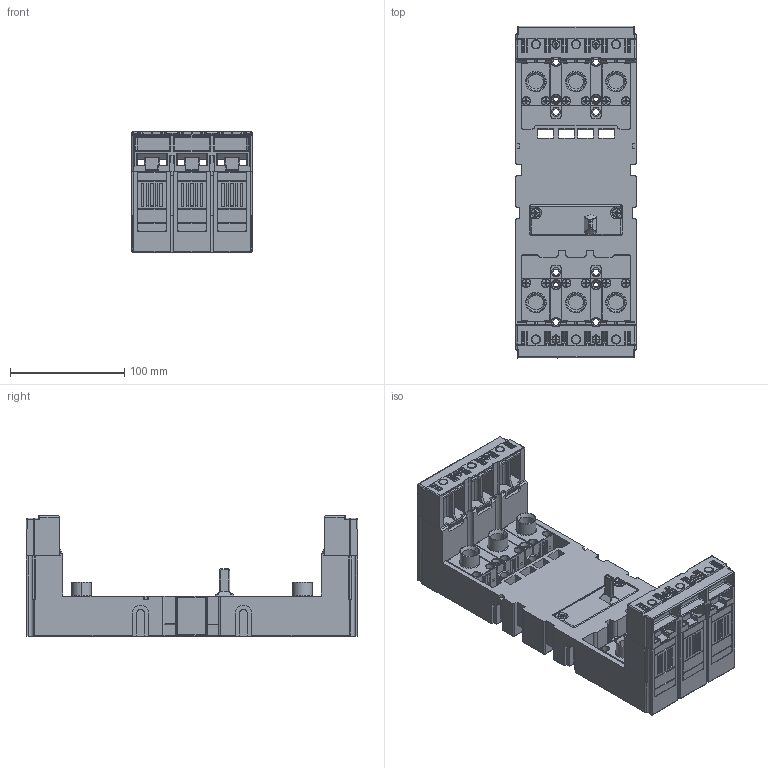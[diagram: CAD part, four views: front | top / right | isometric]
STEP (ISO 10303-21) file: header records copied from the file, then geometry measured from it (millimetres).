
FILE_DESCRIPTION (( 'STEP AP214' ), '1' );
FILE_NAME ('ZO-BD-0250-300_zj_02.step', '2013-08-13T07:47:14', ( '' ), ( '' ), 'SwSTEP 2.0', 'SolidWorks 2011', '' );
FILE_SCHEMA (( 'AUTOMOTIVE_DESIGN' ));
Length unit declared in the file: millimetre
Products named in the file (1): ZO-BD-0250-300_zj_02
Bounding box: 105 x 290 x 105 mm (x, y, z)
Volume: 990097.5 mm3; surface area: 356086.2 mm2
Topology: 9 solids, 34 shells, 5170 faces, 13842 edges, 8730 vertices
Faces by surface type: plane 2984, cylinder 1676, bspline 388, cone 122
Entity records: 222272 total; most frequent: CARTESIAN_POINT 38881, ORIENTED_EDGE 27294, DIRECTION 25293, EDGE_CURVE 13647, VECTOR 9227, LINE 9227, VERTEX_POINT 8730, AXIS2_PLACEMENT_3D 8033
